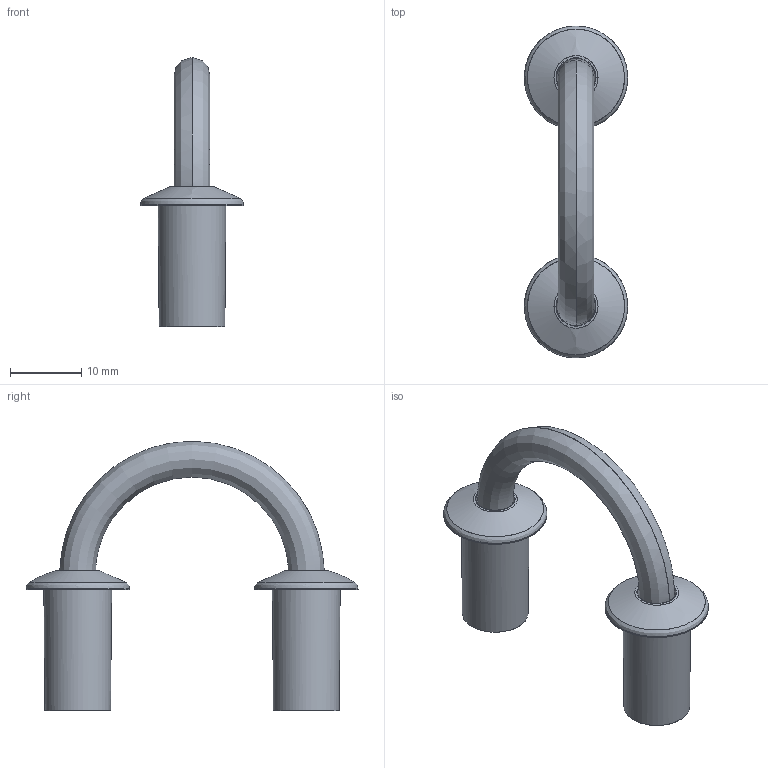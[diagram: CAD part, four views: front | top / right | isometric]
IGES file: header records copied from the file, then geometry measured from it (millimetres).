
Start section: C
Global section: file name: 8296-47.igs; native system: By Siemens PLM Incorporated; preprocessor: XPlus GENERIC/IGES 16.0.42; author: Author; organization: Title; date: 20210505.110358; units: millimetre
Bounding box: 14.5 x 46.5 x 37.7 mm (x, y, z)
Surface area: 3423.4 mm2 (no closed solid volume)
Topology: 0 solids, 0 shells, 29 faces, 154 edges, 154 vertices
Faces by surface type: bspline 29
